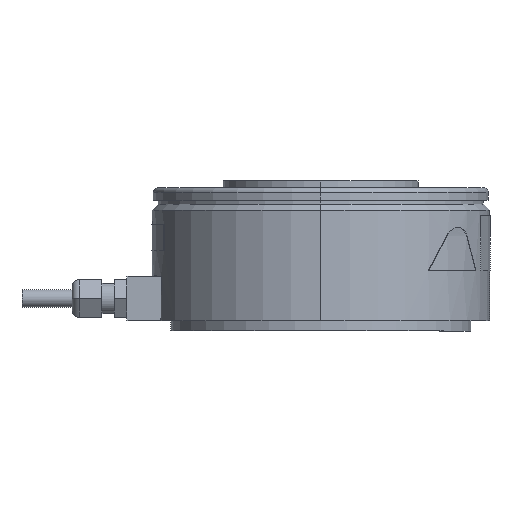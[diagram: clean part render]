
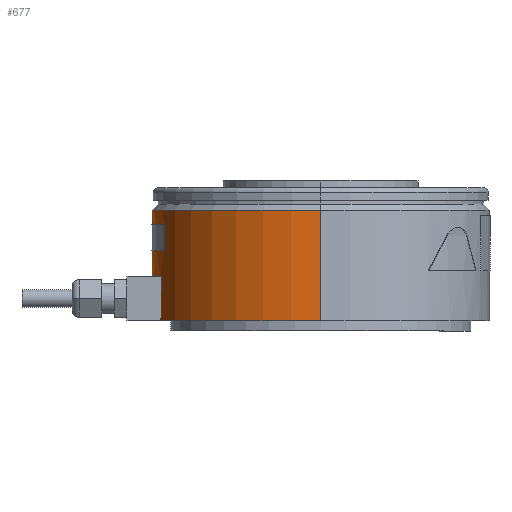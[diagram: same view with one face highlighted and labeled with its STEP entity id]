
A CAD part, left-side view. The second image highlights one B-rep face of the part: STEP entity #677.
In plain terms, the highlighted cylindrical face has radius 67.5 mm (diameter 135 mm), a partial arc.
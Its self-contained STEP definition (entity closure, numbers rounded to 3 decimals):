
#568 = VERTEX_POINT ( 'NONE', #3590 ) ;
#570 = EDGE_CURVE ( 'NONE', #571, #568, #3589, .T. ) ;
#571 = VERTEX_POINT ( 'NONE', #3584 ) ;
#638 = ORIENTED_EDGE ( 'NONE', *, *, #639, .F. ) ;
#639 = EDGE_CURVE ( 'NONE', #640, #721, #3766, .T. ) ;
#640 = VERTEX_POINT ( 'NONE', #3762 ) ;
#641 = ORIENTED_EDGE ( 'NONE', *, *, #642, .T. ) ;
#642 = EDGE_CURVE ( 'NONE', #640, #665, #3761, .T. ) ;
#643 = EDGE_LOOP ( 'NONE', ( #644, #645, #648, #706 ) ) ;
#644 = ORIENTED_EDGE ( 'NONE', *, *, #570, .T. ) ;
#645 = ORIENTED_EDGE ( 'NONE', *, *, #646, .T. ) ;
#646 = EDGE_CURVE ( 'NONE', #568, #647, #3756, .T. ) ;
#647 = VERTEX_POINT ( 'NONE', #3752 ) ;
#648 = ORIENTED_EDGE ( 'NONE', *, *, #649, .F. ) ;
#649 = EDGE_CURVE ( 'NONE', #650, #647, #3750, .T. ) ;
#650 = VERTEX_POINT ( 'NONE', #3751 ) ;
#651 = VERTEX_POINT ( 'NONE', #3745 ) ;
#652 = VERTEX_POINT ( 'NONE', #3744 ) ;
#653 = ORIENTED_EDGE ( 'NONE', *, *, #654, .T. ) ;
#654 = EDGE_CURVE ( 'NONE', #652, #655, #3805, .T. ) ;
#655 = VERTEX_POINT ( 'NONE', #3800 ) ;
#656 = ORIENTED_EDGE ( 'NONE', *, *, #657, .T. ) ;
#657 = EDGE_CURVE ( 'NONE', #655, #658, #3799, .T. ) ;
#658 = VERTEX_POINT ( 'NONE', #3795 ) ;
#659 = ORIENTED_EDGE ( 'NONE', *, *, #660, .T. ) ;
#660 = EDGE_CURVE ( 'NONE', #658, #651, #3794, .T. ) ;
#661 = EDGE_LOOP ( 'NONE', ( #662, #719, #638, #641 ) ) ;
#662 = ORIENTED_EDGE ( 'NONE', *, *, #663, .F. ) ;
#663 = EDGE_CURVE ( 'NONE', #664, #665, #3789, .T. ) ;
#664 = VERTEX_POINT ( 'NONE', #3785 ) ;
#665 = VERTEX_POINT ( 'NONE', #3784 ) ;
#677 = ADVANCED_FACE ( 'NONE', ( #3824, #3823, #3822 ), #3821, .T. ) ;
#678 = EDGE_LOOP ( 'NONE', ( #679, #653, #656, #659 ) ) ;
#679 = ORIENTED_EDGE ( 'NONE', *, *, #680, .T. ) ;
#680 = EDGE_CURVE ( 'NONE', #651, #652, #3820, .T. ) ;
#706 = ORIENTED_EDGE ( 'NONE', *, *, #707, .F. ) ;
#707 = EDGE_CURVE ( 'NONE', #571, #650, #3900, .T. ) ;
#719 = ORIENTED_EDGE ( 'NONE', *, *, #720, .F. ) ;
#720 = EDGE_CURVE ( 'NONE', #721, #664, #3938, .T. ) ;
#721 = VERTEX_POINT ( 'NONE', #3933 ) ;
#3584 = CARTESIAN_POINT ( 'NONE',  ( -67.5, 0., 48.3 ) ) ;
#3585 = DIRECTION ( 'NONE',  ( -1., 0., 0. ) ) ;
#3586 = DIRECTION ( 'NONE',  ( 0., 0., -1. ) ) ;
#3587 = CARTESIAN_POINT ( 'NONE',  ( 0., 0., 48.3 ) ) ;
#3588 = AXIS2_PLACEMENT_3D ( 'NONE', #3587, #3586, #3585 ) ;
#3589 = CIRCLE ( 'NONE', #3588, 67.5 ) ;
#3590 = CARTESIAN_POINT ( 'NONE',  ( 67.5, 0., 48.3 ) ) ;
#3744 = CARTESIAN_POINT ( 'NONE',  ( 25., 62.7, 42.5 ) ) ;
#3745 = CARTESIAN_POINT ( 'NONE',  ( 25., 62.7, 32. ) ) ;
#3746 = DIRECTION ( 'NONE',  ( -1., 0., 0. ) ) ;
#3747 = DIRECTION ( 'NONE',  ( 0., 0., -1. ) ) ;
#3748 = CARTESIAN_POINT ( 'NONE',  ( 0., 0., 4. ) ) ;
#3749 = AXIS2_PLACEMENT_3D ( 'NONE', #3748, #3747, #3746 ) ;
#3750 = CIRCLE ( 'NONE', #3749, 67.5 ) ;
#3751 = CARTESIAN_POINT ( 'NONE',  ( -67.5, 0., 4. ) ) ;
#3752 = CARTESIAN_POINT ( 'NONE',  ( 67.5, 0., 4. ) ) ;
#3753 = DIRECTION ( 'NONE',  ( 0., 0., -1. ) ) ;
#3754 = VECTOR ( 'NONE', #3753, 1000. ) ;
#3755 = CARTESIAN_POINT ( 'NONE',  ( 67.5, 0., -59.236 ) ) ;
#3756 = LINE ( 'NONE', #3755, #3754 ) ;
#3757 = DIRECTION ( 'NONE',  ( 0., 1., 0. ) ) ;
#3758 = DIRECTION ( 'NONE',  ( 0., 0., 1. ) ) ;
#3759 = CARTESIAN_POINT ( 'NONE',  ( 0., 0., 22. ) ) ;
#3760 = AXIS2_PLACEMENT_3D ( 'NONE', #3759, #3758, #3757 ) ;
#3761 = CIRCLE ( 'NONE', #3760, 67.5 ) ;
#3762 = CARTESIAN_POINT ( 'NONE',  ( 21.75, 63.9, 22. ) ) ;
#3763 = DIRECTION ( 'NONE',  ( 0., 0., -1. ) ) ;
#3764 = VECTOR ( 'NONE', #3763, 1000. ) ;
#3765 = CARTESIAN_POINT ( 'NONE',  ( 21.75, 63.9, -59.236 ) ) ;
#3766 = LINE ( 'NONE', #3765, #3764 ) ;
#3784 = CARTESIAN_POINT ( 'NONE',  ( -21.75, 63.9, 22. ) ) ;
#3785 = CARTESIAN_POINT ( 'NONE',  ( -21.75, 63.9, 5. ) ) ;
#3786 = DIRECTION ( 'NONE',  ( 0., 0., 1. ) ) ;
#3787 = VECTOR ( 'NONE', #3786, 1000. ) ;
#3788 = CARTESIAN_POINT ( 'NONE',  ( -21.75, 63.9, -59.236 ) ) ;
#3789 = LINE ( 'NONE', #3788, #3787 ) ;
#3790 = DIRECTION ( 'NONE',  ( 1., 0., 0. ) ) ;
#3791 = DIRECTION ( 'NONE',  ( 0., 0., -1. ) ) ;
#3792 = CARTESIAN_POINT ( 'NONE',  ( 0., 0., 32. ) ) ;
#3793 = AXIS2_PLACEMENT_3D ( 'NONE', #3792, #3791, #3790 ) ;
#3794 = CIRCLE ( 'NONE', #3793, 67.5 ) ;
#3795 = CARTESIAN_POINT ( 'NONE',  ( -25., 62.7, 32. ) ) ;
#3796 = DIRECTION ( 'NONE',  ( 0., 0., -1. ) ) ;
#3797 = VECTOR ( 'NONE', #3796, 1000. ) ;
#3798 = CARTESIAN_POINT ( 'NONE',  ( -25., 62.7, -59.236 ) ) ;
#3799 = LINE ( 'NONE', #3798, #3797 ) ;
#3800 = CARTESIAN_POINT ( 'NONE',  ( -25., 62.7, 42.5 ) ) ;
#3801 = DIRECTION ( 'NONE',  ( -1., 0., 0. ) ) ;
#3802 = DIRECTION ( 'NONE',  ( 0., 0., 1. ) ) ;
#3803 = CARTESIAN_POINT ( 'NONE',  ( 0., 0., 42.5 ) ) ;
#3804 = AXIS2_PLACEMENT_3D ( 'NONE', #3803, #3802, #3801 ) ;
#3805 = CIRCLE ( 'NONE', #3804, 67.5 ) ;
#3813 = DIRECTION ( 'NONE',  ( 0., 0., 1. ) ) ;
#3814 = VECTOR ( 'NONE', #3813, 1000. ) ;
#3815 = CARTESIAN_POINT ( 'NONE',  ( 25., 62.7, -59.236 ) ) ;
#3816 = DIRECTION ( 'NONE',  ( -1., 0., 0. ) ) ;
#3817 = DIRECTION ( 'NONE',  ( 0., 0., -1. ) ) ;
#3818 = CARTESIAN_POINT ( 'NONE',  ( 0., 0., -59.236 ) ) ;
#3819 = AXIS2_PLACEMENT_3D ( 'NONE', #3818, #3817, #3816 ) ;
#3820 = LINE ( 'NONE', #3815, #3814 ) ;
#3821 = CYLINDRICAL_SURFACE ( 'NONE', #3819, 67.5 ) ;
#3822 = FACE_OUTER_BOUND ( 'NONE', #643, .T. ) ;
#3823 = FACE_BOUND ( 'NONE', #661, .T. ) ;
#3824 = FACE_BOUND ( 'NONE', #678, .T. ) ;
#3897 = DIRECTION ( 'NONE',  ( 0., 0., -1. ) ) ;
#3898 = VECTOR ( 'NONE', #3897, 1000. ) ;
#3899 = CARTESIAN_POINT ( 'NONE',  ( -67.5, 0., -59.236 ) ) ;
#3900 = LINE ( 'NONE', #3899, #3898 ) ;
#3933 = CARTESIAN_POINT ( 'NONE',  ( 21.75, 63.9, 5. ) ) ;
#3934 = DIRECTION ( 'NONE',  ( 0., 1., 0. ) ) ;
#3935 = DIRECTION ( 'NONE',  ( 0., 0., 1. ) ) ;
#3936 = CARTESIAN_POINT ( 'NONE',  ( 0., 0., 5. ) ) ;
#3937 = AXIS2_PLACEMENT_3D ( 'NONE', #3936, #3935, #3934 ) ;
#3938 = CIRCLE ( 'NONE', #3937, 67.5 ) ;
